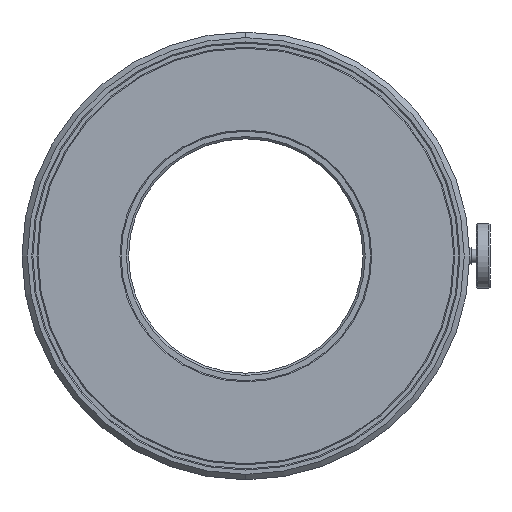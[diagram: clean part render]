
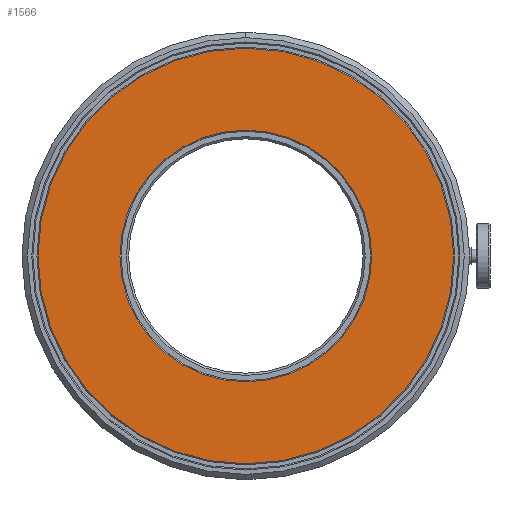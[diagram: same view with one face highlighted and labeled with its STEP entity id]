
A CAD part, left-side view. The second image highlights one B-rep face of the part: STEP entity #1566.
In plain terms, the highlighted planar face has unit normal (-1, 0, 0).
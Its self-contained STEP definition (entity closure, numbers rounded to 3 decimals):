
#131 = PLANE ( 'NONE',  #1592 ) ;
#223 = ORIENTED_EDGE ( 'NONE', *, *, #2211, .T. ) ;
#230 = AXIS2_PLACEMENT_3D ( 'NONE', #600, #1859, #784 ) ;
#398 = CARTESIAN_POINT ( 'NONE',  ( 0., 0., -38.3 ) ) ;
#493 = CARTESIAN_POINT ( 'NONE',  ( 0., 0., -23.2 ) ) ;
#503 = CARTESIAN_POINT ( 'NONE',  ( 0., 0., 0. ) ) ;
#596 = EDGE_CURVE ( 'NONE', #1999, #743, #750, .T. ) ;
#600 = CARTESIAN_POINT ( 'NONE',  ( 0., 0., 0. ) ) ;
#651 = DIRECTION ( 'NONE',  ( 1., 0., 0. ) ) ;
#676 = DIRECTION ( 'NONE',  ( 0., 0., 1. ) ) ;
#678 = EDGE_LOOP ( 'NONE', ( #1387, #223 ) ) ;
#718 = DIRECTION ( 'NONE',  ( -1., 0., 0. ) ) ;
#743 = VERTEX_POINT ( 'NONE', #1994 ) ;
#750 = CIRCLE ( 'NONE', #2294, 38.3 ) ;
#784 = DIRECTION ( 'NONE',  ( 0., 0., 1. ) ) ;
#929 = CARTESIAN_POINT ( 'NONE',  ( 0., 0., 0. ) ) ;
#1037 = ORIENTED_EDGE ( 'NONE', *, *, #1861, .F. ) ;
#1105 = FACE_OUTER_BOUND ( 'NONE', #678, .T. ) ;
#1108 = DIRECTION ( 'NONE',  ( 0., 0., 1. ) ) ;
#1220 = FACE_BOUND ( 'NONE', #2034, .T. ) ;
#1387 = ORIENTED_EDGE ( 'NONE', *, *, #596, .T. ) ;
#1394 = VERTEX_POINT ( 'NONE', #493 ) ;
#1506 = AXIS2_PLACEMENT_3D ( 'NONE', #1791, #718, #1974 ) ;
#1532 = CIRCLE ( 'NONE', #2074, 23.2 ) ;
#1566 = ADVANCED_FACE ( 'NONE', ( #1220, #1105 ), #131, .F. ) ;
#1577 = CIRCLE ( 'NONE', #230, 38.3 ) ;
#1584 = ORIENTED_EDGE ( 'NONE', *, *, #1607, .F. ) ;
#1592 = AXIS2_PLACEMENT_3D ( 'NONE', #1725, #651, #1912 ) ;
#1607 = EDGE_CURVE ( 'NONE', #1954, #1394, #1532, .T. ) ;
#1716 = CIRCLE ( 'NONE', #1506, 23.2 ) ;
#1725 = CARTESIAN_POINT ( 'NONE',  ( 0., 23.2, 0. ) ) ;
#1752 = DIRECTION ( 'NONE',  ( -1., 0., 0. ) ) ;
#1791 = CARTESIAN_POINT ( 'NONE',  ( 0., 0., 0. ) ) ;
#1859 = DIRECTION ( 'NONE',  ( -1., 0., 0. ) ) ;
#1861 = EDGE_CURVE ( 'NONE', #1394, #1954, #1716, .T. ) ;
#1912 = DIRECTION ( 'NONE',  ( 0., 0., -1. ) ) ;
#1954 = VERTEX_POINT ( 'NONE', #1998 ) ;
#1974 = DIRECTION ( 'NONE',  ( 0., 0., 1. ) ) ;
#1994 = CARTESIAN_POINT ( 'NONE',  ( 0., 0., 38.3 ) ) ;
#1998 = CARTESIAN_POINT ( 'NONE',  ( 0., 0., 23.2 ) ) ;
#1999 = VERTEX_POINT ( 'NONE', #398 ) ;
#2034 = EDGE_LOOP ( 'NONE', ( #1584, #1037 ) ) ;
#2074 = AXIS2_PLACEMENT_3D ( 'NONE', #503, #1752, #676 ) ;
#2190 = DIRECTION ( 'NONE',  ( -1., 0., 0. ) ) ;
#2211 = EDGE_CURVE ( 'NONE', #743, #1999, #1577, .T. ) ;
#2294 = AXIS2_PLACEMENT_3D ( 'NONE', #929, #2190, #1108 ) ;
